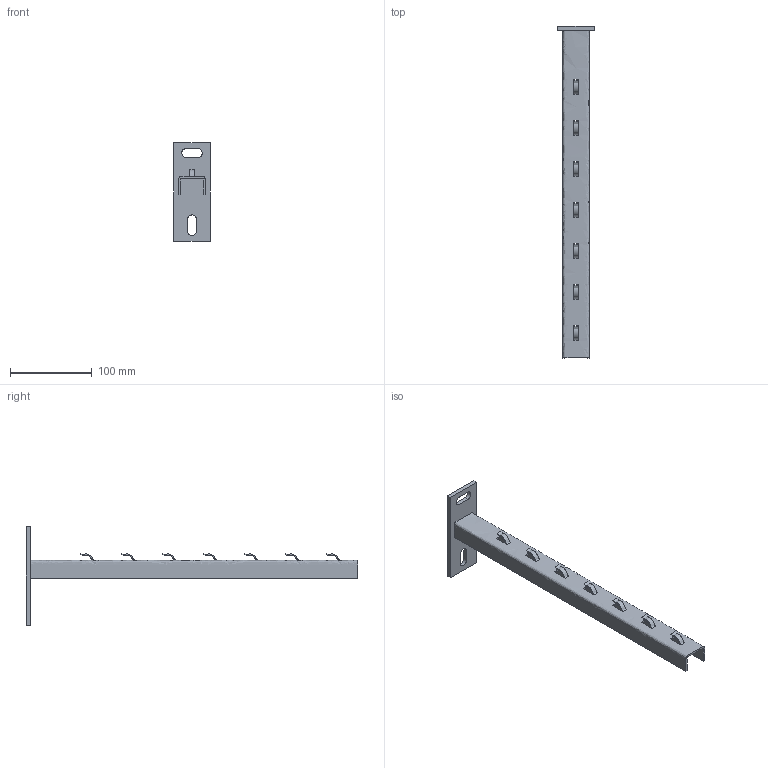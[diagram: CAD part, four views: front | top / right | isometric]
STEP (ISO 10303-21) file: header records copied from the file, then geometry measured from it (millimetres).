
FILE_DESCRIPTION(/* description */ (''),/* implementation_level */ '2;1');
FILE_NAME(/* name */ 'NPZM400',/* time_stamp */ '2013-11-22T10:38:56+01:00',/* author */ (''),/* organization */ (''),/* preprocessor_version */ 'ST-DEVELOPER v10',/* originating_system */ '',/* authorisation */ '');
FILE_SCHEMA (('AUTOMOTIVE_DESIGN_CC2'));
Length unit declared in the file: millimetre
Products named in the file (1): 1
Bounding box: 45 x 405 x 120 mm (x, y, z)
Volume: 77583.1 mm3; surface area: 72418.3 mm2
Topology: 9 solids, 9 shells, 142 faces, 400 edges, 276 vertices
Faces by surface type: bspline 132, plane 10
Entity records: 7207 total; most frequent: CARTESIAN_POINT 4947, ORIENTED_EDGE 744, EDGE_CURVE 372, VERTEX_POINT 248, B_SPLINE_CURVE_WITH_KNOTS 178, EDGE_LOOP 160, ADVANCED_FACE 142, FACE_OUTER_BOUND 142
